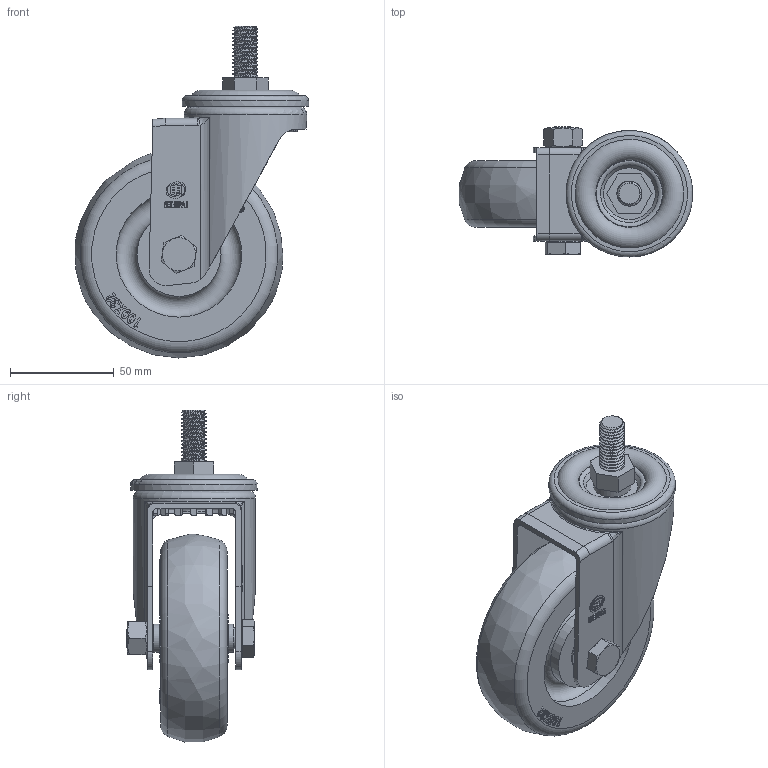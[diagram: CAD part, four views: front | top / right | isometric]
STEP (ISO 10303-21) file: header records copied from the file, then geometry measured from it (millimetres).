
FILE_DESCRIPTION(/* description */ (''),/* implementation_level */ '2;1');
FILE_NAME(/* name */ '20A22_4_F.stp',/* time_stamp */ '2022-09-03T10:39:18+08:00',/* author */ (''),/* organization */ (''),/* preprocessor_version */ 'ST-DEVELOPER v14',/* originating_system */ 'SIEMENS PLM Software NX 8.0',/* authorisation */ '');
FILE_SCHEMA (('AUTOMOTIVE_DESIGN { 1 0 10303 214 3 1 1 1 }'));
Length unit declared in the file: millimetre
Products named in the file (1): 20A22_4_F
Bounding box: 112.45 x 62.75 x 159.93 mm (x, y, z)
Volume: 264946.6 mm3; surface area: 72504.9 mm2
Topology: 1 solids, 1 shells, 813 faces, 2249 edges, 1493 vertices
Faces by surface type: plane 481, cylinder 164, torus 43, sphere 38, cone 36, bspline 27, extrusion 24
Full cylindrical faces by diameter (mm): 2.841 x1, 3.44 x1, 10 x2, 10.2 x2, 12 x1, 12.2 x1, 12.496 x1, 13.6 x2, 16 x1, 18 x1, 23 x2, 30.122 x1, 40.5 x2, 45.996 x1, 54 x1, 56 x1, 59 x1, 60.5 x2, 61 x1
Entity records: 33446 total; most frequent: CARTESIAN_POINT 14602, ORIENTED_EDGE 4100, DIRECTION 3412, EDGE_CURVE 2050, VERTEX_POINT 1394, AXIS2_PLACEMENT_3D 1181, VECTOR 1050, LINE 1026
